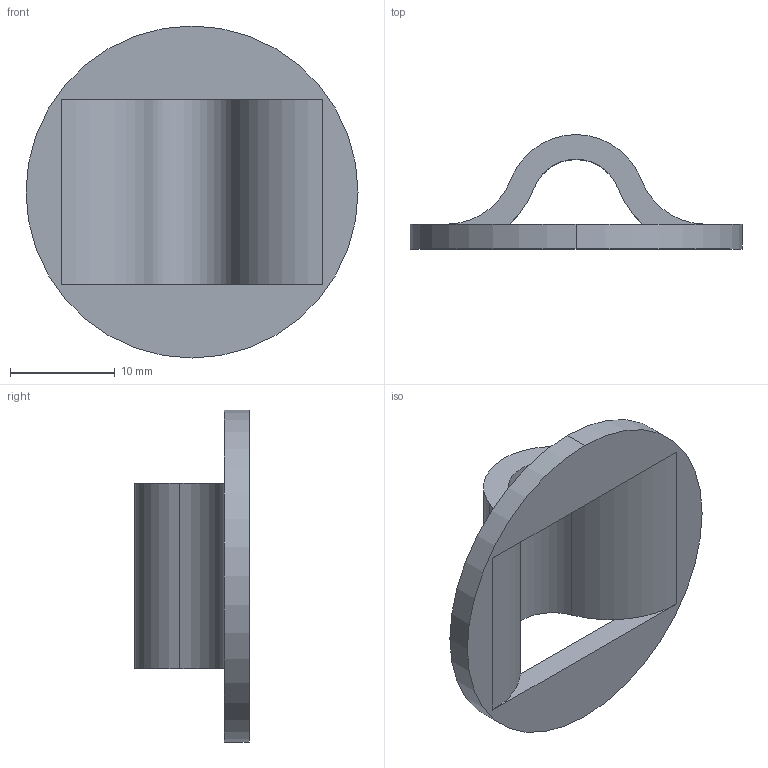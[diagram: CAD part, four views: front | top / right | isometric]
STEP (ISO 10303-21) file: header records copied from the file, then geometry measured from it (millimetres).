
FILE_DESCRIPTION (( 'STEP AP203' ), '1' );
FILE_NAME ('517651-40.STEP', '2024-11-14T17:36:26', ( '' ), ( '' ), 'SwSTEP 2.0', 'SolidWorks 2024', '' );
FILE_SCHEMA (( 'CONFIG_CONTROL_DESIGN' ));
Length unit declared in the file: inch
Products named in the file (1): 517651-40
Bounding box: 31.75 x 10.93 x 31.75 mm (x, y, z)
Volume: 2174.8 mm3; surface area: 2267.4 mm2
Topology: 1 solids, 1 shells, 14 faces, 38 edges, 24 vertices
Faces by surface type: cylinder 8, plane 6
Entity records: 537 total; most frequent: DIRECTION 88, CARTESIAN_POINT 77, ORIENTED_EDGE 76, EDGE_CURVE 38, AXIS2_PLACEMENT_3D 35, VERTEX_POINT 24, CIRCLE 20, VECTOR 18
